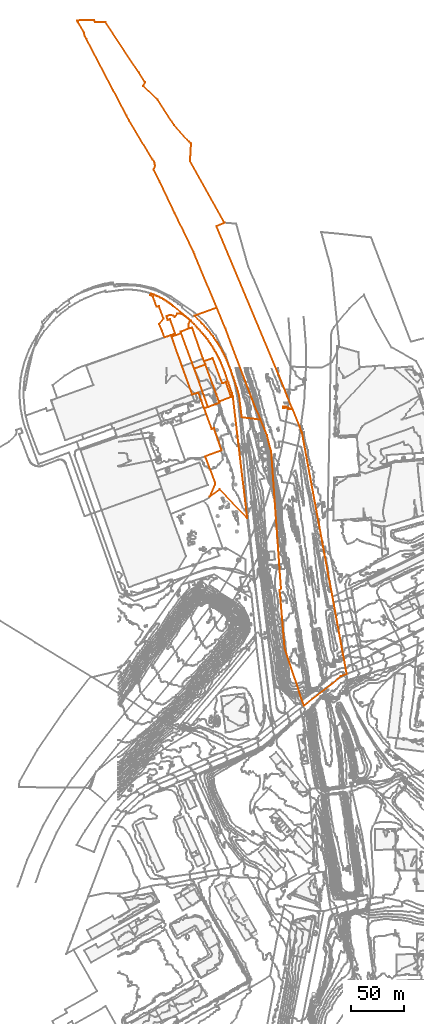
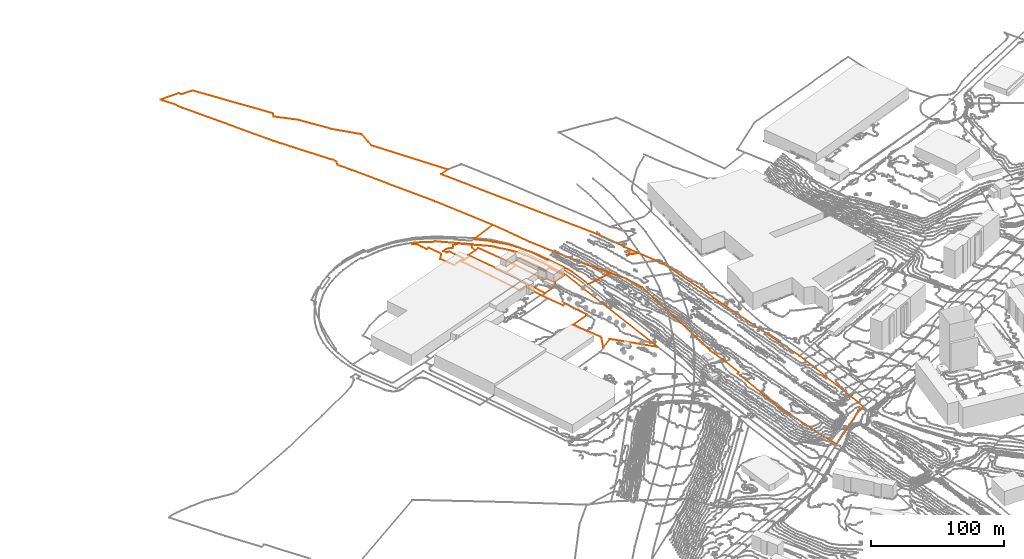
# Not in any storey, part 313 of 419: 8 proxies.
"""IFC2X3 model written with IfcOpenShell, lengths in metres."""

from ifc_helpers import new_model, entity, si_unit, frame, origin_with_axes, place, context, subcontext, project, element, save


model = new_model("IFC2X3")

# Units and contexts
model_context = context("Model", 3, precision=1e-05, world=origin_with_axes())
body_context = subcontext(model_context, "Body", "Model", "MODEL_VIEW")
ifc_project = project(units=[si_unit("AREAUNIT", "SQUARE_METRE"), si_unit("LENGTHUNIT", "METRE")], contexts=[model_context])

# Proxies
proxy_1_placement = place(None, frame((50.2620204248, 1061.9576909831, 21.2533000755), z_axis=(0.0, 0.0, 1.0), x_axis=(1.0, 0.0, 0.0)))
element("IfcBuildingElementProxy", 1, at=proxy_1_placement, Name="Cadastre 290", ObjectType="NOTDEFINED", context=body_context, shape_type="GeometricCurveSet", body=[
    entity("IfcGeometricCurveSet", [entity("IfcPolyline", [entity("IfcCartesianPoint", [28.0, -60.3000000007, -0.7980201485]), entity("IfcCartesianPoint", [25.21, -52.5700000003, -0.1687483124]), entity("IfcCartesianPoint", [19.46, -54.5700000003, -0.3902256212]), entity("IfcCartesianPoint", [9.7, -27.8200000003, 0.2915002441]), entity("IfcCartesianPoint", [0.0, 0.0, 0.0]), entity("IfcCartesianPoint", [8.9199999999, 3.1799999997, 0.2603002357]), entity("IfcCartesianPoint", [19.08, -24.5500000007, 0.5141993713]), entity("IfcCartesianPoint", [21.16, -30.1200000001, 0.7509998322]), entity("IfcCartesianPoint", [21.26, -30.0800000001, 0.7663997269]), entity("IfcCartesianPoint", [34.28, -66.2200000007, -0.8514497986]), entity("IfcCartesianPoint", [30.66, -67.5500000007, -0.9732330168]), entity("IfcCartesianPoint", [30.1699999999, -66.2000000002, -0.9676512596]), entity("IfcCartesianPoint", [28.0, -60.3000000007, -0.7980201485])])]),
])
proxy_2_placement = place(None, frame((58.6220204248, 1066.667690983, 21.4911997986), z_axis=(0.0, 0.0, 1.0), x_axis=(1.0, 0.0, 0.0)))
element("IfcBuildingElementProxy", 2, at=proxy_2_placement, Name="Cadastre 291", ObjectType="NOTDEFINED", context=body_context, shape_type="GeometricCurveSet", body=[
    entity("IfcGeometricCurveSet", [entity("IfcPolyline", [entity("IfcCartesianPoint", [22.26, -27.8200000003, 1.4540000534]), entity("IfcCartesianPoint", [23.46, -31.0200000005, 1.3590005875]), entity("IfcCartesianPoint", [12.9, -34.79, 0.5285000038]), entity("IfcCartesianPoint", [12.8, -34.8300000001, 0.5131001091]), entity("IfcCartesianPoint", [10.72, -29.2600000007, 0.2762996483]), entity("IfcCartesianPoint", [0.5599999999, -1.5300000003, 0.0224005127]), entity("IfcCartesianPoint", [0.0, 0.0, 0.0]), entity("IfcCartesianPoint", [7.6799999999, 2.8999999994, -0.1188997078]), entity("IfcCartesianPoint", [11.05, 3.9199999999, 0.3191995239]), entity("IfcCartesianPoint", [21.16, -25.54, 1.5050001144]), entity("IfcCartesianPoint", [22.26, -27.8200000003, 1.4540000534])])]),
])
proxy_3_placement = place(None, frame((30.0220204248, 1101.1476909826, 20.6043004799), z_axis=(0.0, 0.0, 1.0), x_axis=(1.0, 0.0, 0.0)))
element("IfcBuildingElementProxy", 3, at=proxy_3_placement, Name="Cadastre 292", ObjectType="NOTDEFINED", context=body_context, shape_type="GeometricCurveSet", body=[
    entity("IfcGeometricCurveSet", [entity("IfcPolyline", [entity("IfcCartesianPoint", [56.15, -189.9399999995, 0.9503968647]), entity("IfcCartesianPoint", [61.0499999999, -178.7599999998, 0.9445557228]), entity("IfcCartesianPoint", [61.24, -176.96, 0.8937717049]), entity("IfcCartesianPoint", [52.38, -153.0199999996, 0.0146864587]), entity("IfcCartesianPoint", [51.52, -152.1100000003, -0.0318602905]), entity("IfcCartesianPoint", [67.4299999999, -146.3399999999, 0.578199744]), entity("IfcCartesianPoint", [60.0399999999, -125.4100000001, 0.3617955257]), entity("IfcCartesianPoint", [58.1, -126.21, 0.0119512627]), entity("IfcCartesianPoint", [52.9, -112.0899999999, -0.2544007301]), entity("IfcCartesianPoint", [50.9, -106.7400000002, -0.3242334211]), entity("IfcCartesianPoint", [54.52, -105.4100000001, -0.2024502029]), entity("IfcCartesianPoint", [61.89, -102.7199999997, 0.3014192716]), entity("IfcCartesianPoint", [65.33, -101.4299999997, 3.0245792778]), entity("IfcCartesianPoint", [64.85, -100.2800000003, 3.1271158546]), entity("IfcCartesianPoint", [76.3099999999, -96.0499999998, 3.0022397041]), entity("IfcCartesianPoint", [71.35, -82.1499999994, 2.8902594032]), entity("IfcCartesianPoint", [67.9099999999, -83.1600000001, 2.6980595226]), entity("IfcCartesianPoint", [59.0, -59.3999999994, 2.8486995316]), entity("IfcCartesianPoint", [50.86, -62.2999999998, 2.3408993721]), entity("IfcCartesianPoint", [49.76, -60.0199999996, 2.3918994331]), entity("IfcCartesianPoint", [39.65, -30.5599999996, 1.2060988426]), entity("IfcCartesianPoint", [36.2799999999, -31.5800000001, 0.7679996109]), entity("IfcCartesianPoint", [36.2, -27.5, 0.757599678]), entity("IfcCartesianPoint", [37.49, -23.9399999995, 0.9253003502]), entity("IfcCartesianPoint", [29.76, -17.7999999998, 0.9333000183]), entity("IfcCartesianPoint", [25.5599999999, -17.3700000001, 0.7653003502]), entity("IfcCartesianPoint", [23.1899999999, -20.5199999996, 0.6705000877]), entity("IfcCartesianPoint", [21.58, -19.2400000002, 0.6456995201]), entity("IfcCartesianPoint", [18.4399999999, -18.8300000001, 0.7008988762]), entity("IfcCartesianPoint", [15.24, -19.9100000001, 0.5614994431]), entity("IfcCartesianPoint", [16.51, -23.3600000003, 0.7681002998]), entity("IfcCartesianPoint", [18.65, -22.7999999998, 0.6924988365]), entity("IfcCartesianPoint", [23.59, -36.1899999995, 0.6865004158]), entity("IfcCartesianPoint", [19.52, -37.6499999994, 0.6576996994]), entity("IfcCartesianPoint", [16.01, -38.8999999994, 0.7880998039]), entity("IfcCartesianPoint", [13.58, -39.7599999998, 0.0954002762]), entity("IfcCartesianPoint", [11.0, -33.4799999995, 0.0756998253]), entity("IfcCartesianPoint", [8.39, -27.1299999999, 0.0556993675]), entity("IfcCartesianPoint", [12.46, -22.1100000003, 0.084600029]), entity("IfcCartesianPoint", [8.14, -10.2000000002, 0.0556993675]), entity("IfcCartesianPoint", [6.08, -10.9399999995, 0.0407990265]), entity("IfcCartesianPoint", [4.1799999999, -5.75, 0.0317988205]), entity("IfcCartesianPoint", [2.62, -1.4299999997, 0.0162002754]), entity("IfcCartesianPoint", [0.0, 0.0, 0.0]), entity("IfcCartesianPoint", [0.73, 1.4299999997, 0.0057001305]), entity("IfcCartesianPoint", [2.1799999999, 0.9100000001, 0.0118002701]), entity("IfcCartesianPoint", [3.63, 0.3600000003, 0.0262986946]), entity("IfcCartesianPoint", [5.0499999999, -0.2199999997, 0.0356989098]), entity("IfcCartesianPoint", [6.45, -0.8399999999, 0.0444991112]), entity("IfcCartesianPoint", [7.85, -1.4799999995, 0.0556993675]), entity("IfcCartesianPoint", [9.22, -2.1600000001, 0.0621995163]), entity("IfcCartesianPoint", [10.59, -2.8700000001, 0.0756998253]), entity("IfcCartesianPoint", [11.9299999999, -3.6200000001, 0.0792999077]), entity("IfcCartesianPoint", [13.27, -4.3899999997, 0.0927002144]), entity("IfcCartesianPoint", [14.58, -5.2000000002, 0.0730995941]), entity("IfcCartesianPoint", [15.87, -6.0300000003, 0.7936996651]), entity("IfcCartesianPoint", [17.14, -6.8899999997, 0.748599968]), entity("IfcCartesianPoint", [18.2899999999, -7.7000000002, 0.7068990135]), entity("IfcCartesianPoint", [19.4399999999, -8.5499999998, 0.6608996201]), entity("IfcCartesianPoint", [20.5499999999, -9.4199999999, 0.6458995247]), entity("IfcCartesianPoint", [21.65, -10.3099999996, 0.6456995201]), entity("IfcCartesianPoint", [38.5699999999, -24.2199999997, 1.0656995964]), entity("IfcCartesianPoint", [38.21, -24.6399999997, 1.0188998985]), entity("IfcCartesianPoint", [39.77, -26.0499999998, 1.2216989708]), entity("IfcCartesianPoint", [41.3099999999, -27.5, 1.4218992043]), entity("IfcCartesianPoint", [42.8199999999, -28.9699999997, 1.6181998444]), entity("IfcCartesianPoint", [44.3099999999, -30.46, 1.8119000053]), entity("IfcCartesianPoint", [45.76, -31.9799999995, 2.0003992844]), entity("IfcCartesianPoint", [47.1899999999, -33.54, 2.1862992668]), entity("IfcCartesianPoint", [48.59, -35.1100000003, 2.3564986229]), entity("IfcCartesianPoint", [49.96, -36.7199999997, 2.3878993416]), entity("IfcCartesianPoint", [51.2899999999, -38.3499999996, 2.2892998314]), entity("IfcCartesianPoint", [52.6, -40.0, 2.2377996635]), entity("IfcCartesianPoint", [53.88, -41.6799999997, 2.3366994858]), entity("IfcCartesianPoint", [55.13, -43.3799999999, 2.4616999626]), entity("IfcCartesianPoint", [56.34, -45.1100000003, 2.5826989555]), entity("IfcCartesianPoint", [57.5299999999, -46.8499999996, 2.7016989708]), entity("IfcCartesianPoint", [58.6699999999, -48.6200000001, 2.8156994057]), entity("IfcCartesianPoint", [59.7899999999, -50.4100000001, 2.9210996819]), entity("IfcCartesianPoint", [60.87, -52.2199999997, 2.9726993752]), entity("IfcCartesianPoint", [61.9199999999, -54.0499999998, 2.9551996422]), entity("IfcCartesianPoint", [62.9299999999, -55.8999999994, 2.9140999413]), entity("IfcCartesianPoint", [63.9099999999, -57.7599999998, 2.8756990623]), entity("IfcCartesianPoint", [64.86, -59.6499999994, 2.8466989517]), entity("IfcCartesianPoint", [65.77, -61.54, 2.7636987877]), entity("IfcCartesianPoint", [66.64, -63.46, 2.7114992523]), entity("IfcCartesianPoint", [67.9299999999, -66.6499999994, 2.6448995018]), entity("IfcCartesianPoint", [69.1699999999, -69.8399999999, 2.5931190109]), entity("IfcCartesianPoint", [70.39, -73.04, 2.6675861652]), entity("IfcCartesianPoint", [71.5599999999, -76.2599999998, 2.6909525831]), entity("IfcCartesianPoint", [72.72, -79.4799999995, 2.6641842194]), entity("IfcCartesianPoint", [73.83, -82.7199999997, 2.7380332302]), entity("IfcCartesianPoint", [74.9, -85.9699999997, 2.7498650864]), entity("IfcCartesianPoint", [75.96, -89.2400000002, 2.7871339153]), entity("IfcCartesianPoint", [76.97, -92.5099999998, 2.8436993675]), entity("IfcCartesianPoint", [77.95, -95.79, 2.8690909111]), entity("IfcCartesianPoint", [91.51, -210.3600000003, 1.2773998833]), entity("IfcCartesianPoint", [65.62, -183.0099999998, 0.9968194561]), entity("IfcCartesianPoint", [56.15, -189.9399999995, 0.9503968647])])]),
])
proxy_4_placement = place(None, frame((71.5220204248, 1031.877690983, 22.0196998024), z_axis=(0.0, 0.0, 1.0), x_axis=(1.0, 0.0, 0.0)))
element("IfcBuildingElementProxy", 4, at=proxy_4_placement, Name="Cadastre 293", ObjectType="NOTDEFINED", context=body_context, shape_type="GeometricCurveSet", body=[
    entity("IfcGeometricCurveSet", [entity("IfcPolyline", [entity("IfcCartesianPoint", [10.5599999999, 3.7699999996, 0.8305005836]), entity("IfcCartesianPoint", [18.27, -17.21, 0.1292402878]), entity("IfcCartesianPoint", [20.9399999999, -24.5700000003, 1.5533337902]), entity("IfcCartesianPoint", [23.35, -31.0100000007, 1.7117165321]), entity("IfcCartesianPoint", [23.83, -32.1600000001, 1.6091799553]), entity("IfcCartesianPoint", [20.39, -33.4500000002, -1.113980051]), entity("IfcCartesianPoint", [13.02, -36.1400000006, -1.6178495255]), entity("IfcCartesianPoint", [0.0, 0.0, 0.0]), entity("IfcCartesianPoint", [10.5599999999, 3.7699999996, 0.8305005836])])]),
])
proxy_5_placement = place(None, frame((-39.0379795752, 1360.1876909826, 20.3899993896), z_axis=(0.0, 0.0, 1.0), x_axis=(1.0, 0.0, 0.0)))
element("IfcBuildingElementProxy", 5, at=proxy_5_placement, Name="Cadastre 294", ObjectType="NOTDEFINED", context=body_context, shape_type="GeometricCurveSet", body=[
    entity("IfcGeometricCurveSet", [entity("IfcPolyline", [entity("IfcCartesianPoint", [26.86, -1.7999999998, 0.0]), entity("IfcCartesianPoint", [58.4300000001, -49.3899999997, 0.1380012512]), entity("IfcCartesianPoint", [64.05, -58.1200000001, 0.1800003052]), entity("IfcCartesianPoint", [62.51, -62.0300000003, 0.1688000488]), entity("IfcCartesianPoint", [76.0700000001, -74.8399999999, 0.2644003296]), entity("IfcCartesianPoint", [91.6900000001, -98.8700000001, 0.8624006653]), entity("IfcCartesianPoint", [105.7100000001, -114.4199999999, 1.0304005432]), entity("IfcCartesianPoint", [106.91, -115.5899999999, 1.1864012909]), entity("IfcCartesianPoint", [107.5600000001, -116.1600000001, 1.2709007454]), entity("IfcCartesianPoint", [106.91, -126.9900000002, 1.1864012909]), entity("IfcCartesianPoint", [106.63, -132.8600000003, 1.1500015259]), entity("IfcCartesianPoint", [139.01, -190.79, 2.9314003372]), entity("IfcCartesianPoint", [131.47, -194.0899999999, 3.1548013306]), entity("IfcCartesianPoint", [189.6900000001, -332.8200000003, 10.7722564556]), entity("IfcCartesianPoint", [198.24, -354.0700000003, 10.1266009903]), entity("IfcCartesianPoint", [209.8100000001, -382.7000000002, 10.6100286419]), entity("IfcCartesianPoint", [210.3100000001, -384.1100000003, 10.6343531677]), entity("IfcCartesianPoint", [212.2000000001, -388.8799999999, 10.6266139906]), entity("IfcCartesianPoint", [240.9400000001, -543.5099999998, 10.0317487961]), entity("IfcCartesianPoint", [251.36, -600.1500000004, 4.6852442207]), entity("IfcCartesianPoint", [253.3100000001, -610.5499999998, 3.4988650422]), entity("IfcCartesianPoint", [254.34, -616.1799999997, 2.8032313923]), entity("IfcCartesianPoint", [248.65, -618.46, 2.5001980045]), entity("IfcCartesianPoint", [240.47, -625.5099999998, 1.8843046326]), entity("IfcCartesianPoint", [213.98, -646.0599999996, 0.6997007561]), entity("IfcCartesianPoint", [212.3200000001, -641.4199999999, 0.902328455]), entity("IfcCartesianPoint", [195.78, -591.9100000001, 7.2796410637]), entity("IfcCartesianPoint", [191.16, -536.9699999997, 7.4831465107]), entity("IfcCartesianPoint", [192.42, -535.9799999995, 7.5084975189]), entity("IfcCartesianPoint", [190.9, -515.3799999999, 6.7588511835]), entity("IfcCartesianPoint", [189.7100000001, -498.1899999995, 5.3069609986]), entity("IfcCartesianPoint", [183.17, -406.7400000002, 10.3520011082]), entity("IfcCartesianPoint", [179.09, -391.0599999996, 9.8067163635]), entity("IfcCartesianPoint", [173.14, -376.5599999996, 8.6762818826]), entity("IfcCartesianPoint", [165.11, -357.0199999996, 6.6567364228]), entity("IfcCartesianPoint", [144.89, -303.8300000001, 2.934800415]), entity("IfcCartesianPoint", [139.9500000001, -290.3799999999, 2.9532008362]), entity("IfcCartesianPoint", [131.8100000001, -270.9100000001, 3.1392012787]), entity("IfcCartesianPoint", [110.89, -220.7999999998, 1.703800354]), entity("IfcCartesianPoint", [109.99, -218.6200000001, 1.5868006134]), entity("IfcCartesianPoint", [92.1900000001, -181.5099999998, 0.882401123]), entity("IfcCartesianPoint", [78.05, -151.9799999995, 0.2742005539]), entity("IfcCartesianPoint", [72.29, -140.7999999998, 0.2366003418]), entity("IfcCartesianPoint", [73.64, -137.0999999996, 0.25]), entity("IfcCartesianPoint", [72.92, -133.2599999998, 0.2428998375]), entity("IfcCartesianPoint", [71.26, -131.46, 0.2263013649]), entity("IfcCartesianPoint", [49.29, -94.29, 0.0765998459]), entity("IfcCartesianPoint", [46.66, -89.5999999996, 0.0603013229]), entity("IfcCartesianPoint", [34.29, -66.0, 0.0]), entity("IfcCartesianPoint", [8.9600000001, -17.7000000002, 0.0]), entity("IfcCartesianPoint", [7.15, -14.0999999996, 0.0]), entity("IfcCartesianPoint", [6.74, -11.3899999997, 0.0]), entity("IfcCartesianPoint", [0.99, -1.8499999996, 0.0]), entity("IfcCartesianPoint", [0.0, 0.0, 0.0]), entity("IfcCartesianPoint", [16.0600000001, 0.5200000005, 0.0]), entity("IfcCartesianPoint", [17.04, -1.5999999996, 0.0]), entity("IfcCartesianPoint", [26.86, -1.7999999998, 0.0])])]),
])
proxy_6_placement = place(None, frame((80.8820204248, 1038.8476909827, 22.945199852), z_axis=(0.0, 0.0, 1.0), x_axis=(1.0, 0.0, 0.0)))
element("IfcBuildingElementProxy", 6, at=proxy_6_placement, Name="Cadastre 295", ObjectType="NOTDEFINED", context=body_context, shape_type="GeometricCurveSet", body=[
    entity("IfcGeometricCurveSet", [entity("IfcPolyline", [entity("IfcCartesianPoint", [13.99, -37.9800000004, 0.7862164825]), entity("IfcCartesianPoint", [11.58, -31.54, 0.6278337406]), entity("IfcCartesianPoint", [8.91, -24.1799999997, -0.7962597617]), entity("IfcCartesianPoint", [1.2, -3.2000000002, -0.0949994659]), entity("IfcCartesianPoint", [0.0, 0.0, 0.0]), entity("IfcCartesianPoint", [8.14, 2.9000000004, 0.5078001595]), entity("IfcCartesianPoint", [17.0499999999, -20.8600000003, 0.3571601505]), entity("IfcCartesianPoint", [20.49, -19.8499999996, 0.5493600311]), entity("IfcCartesianPoint", [25.45, -33.75, 0.661340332]), entity("IfcCartesianPoint", [13.99, -37.9800000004, 0.7862164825])])]),
])
proxy_7_placement = place(None, frame((72.0920204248, 1081.7976909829, 22.125), z_axis=(0.0, 0.0, 1.0), x_axis=(1.0, 0.0, 0.0)))
element("IfcBuildingElementProxy", 7, at=proxy_7_placement, Name="Cadastre 297", ObjectType="NOTDEFINED", context=body_context, shape_type="GeometricCurveSet", body=[
    entity("IfcGeometricCurveSet", [entity("IfcPolyline", [entity("IfcCartesianPoint", [0.0, 0.0, 0.0]), entity("IfcCartesianPoint", [20.6800000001, 7.4799999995, 1.4042006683]), entity("IfcCartesianPoint", [28.8200000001, -11.9900000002, 1.2182002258]), entity("IfcCartesianPoint", [33.76, -25.4400000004, 1.1997998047]), entity("IfcCartesianPoint", [53.98, -78.6299999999, 4.9217358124]), entity("IfcCartesianPoint", [62.01, -98.1699999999, 6.9412812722]), entity("IfcCartesianPoint", [44.22, -95.8399999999, 1.394968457]), entity("IfcCartesianPoint", [41.77, -75.2400000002, 1.4509359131]), entity("IfcCartesianPoint", [40.77, -71.8399999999, 1.374752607]), entity("IfcCartesianPoint", [39.72, -68.4500000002, 1.328819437]), entity("IfcCartesianPoint", [38.64, -65.0700000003, 1.2993761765]), entity("IfcCartesianPoint", [37.52, -61.7000000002, 1.2742196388]), entity("IfcCartesianPoint", [36.37, -58.3500000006, 1.2323053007]), entity("IfcCartesianPoint", [35.1800000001, -55.0100000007, 1.2425047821]), entity("IfcCartesianPoint", [33.97, -51.6800000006, 1.2275364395]), entity("IfcCartesianPoint", [32.7000000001, -48.3600000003, 1.2210002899]), entity("IfcCartesianPoint", [31.42, -45.0600000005, 1.245800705]), entity("IfcCartesianPoint", [30.09, -41.7700000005, 1.2426996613]), entity("IfcCartesianPoint", [29.2000000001, -39.7999999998, 1.2220003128]), entity("IfcCartesianPoint", [28.27, -37.8600000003, 1.2080999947]), entity("IfcCartesianPoint", [27.3100000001, -35.9300000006, 1.1697994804]), entity("IfcCartesianPoint", [26.3100000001, -34.0200000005, 1.1106996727]), entity("IfcCartesianPoint", [25.28, -32.1299999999, 1.1482001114]), entity("IfcCartesianPoint", [24.21, -30.25, 1.2123995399]), entity("IfcCartesianPoint", [23.11, -28.4000000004, 1.2939993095]), entity("IfcCartesianPoint", [21.99, -26.5600000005, 1.3549995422]), entity("IfcCartesianPoint", [20.8100000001, -24.75, 1.3964004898]), entity("IfcCartesianPoint", [19.62, -22.96, 1.4413998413]), entity("IfcCartesianPoint", [18.39, -21.1800000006, 1.4472999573]), entity("IfcCartesianPoint", [17.13, -19.4400000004, 1.3480000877]), entity("IfcCartesianPoint", [15.8300000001, -17.71, 1.2179995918]), entity("IfcCartesianPoint", [14.51, -16.0100000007, 1.0859990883]), entity("IfcCartesianPoint", [13.16, -14.3300000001, 0.9510004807]), entity("IfcCartesianPoint", [11.77, -12.6800000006, 0.8119999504]), entity("IfcCartesianPoint", [10.36, -11.0499999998, 0.7178002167]), entity("IfcCartesianPoint", [8.92, -9.46, 0.8045999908]), entity("IfcCartesianPoint", [7.4500000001, -7.8799999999, 0.8729999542]), entity("IfcCartesianPoint", [5.9400000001, -6.3300000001, 0.7677996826]), entity("IfcCartesianPoint", [4.42, -4.8100000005, 0.5745991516]), entity("IfcCartesianPoint", [0.0, 0.0, 0.0])])]),
])
proxy_8_placement = place(None, frame((155.0920145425, 995.8976909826, 31.0), z_axis=(0.0, 0.0, 1.0), x_axis=(1.0, 0.0, 0.0)))
element("IfcBuildingElementProxy", 8, at=proxy_8_placement, Name="Contour 31.0 m", ObjectType="NOTDEFINED", context=body_context, shape_type="GeometricCurveSet", body=[
    entity("IfcGeometricCurveSet", [entity("IfcPolyline", [entity("IfcCartesianPoint", [8.0001058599, -2.0, 0.0]), entity("IfcCartesianPoint", [4.9999725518, -2.0, 0.0]), entity("IfcCartesianPoint", [4.0000058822, -1.0000333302, 0.0]), entity("IfcCartesianPoint", [5.8822e-06, -1.1333367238, 0.0]), entity("IfcCartesianPoint", [0.0, 0.0, 0.0]), entity("IfcCartesianPoint", [3.0000058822, 9.99775e-05, 0.0]), entity("IfcCartesianPoint", [4.0000058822, -0.9999000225, 0.0]), entity("IfcCartesianPoint", [5.0000058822, -0.9999000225, 0.0]), entity("IfcCartesianPoint", [7.0000058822, -1.9999000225, 0.0]), entity("IfcCartesianPoint", [8.0001058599, -2.0, 0.0])])]),
])

save(model, "model.ifc")
